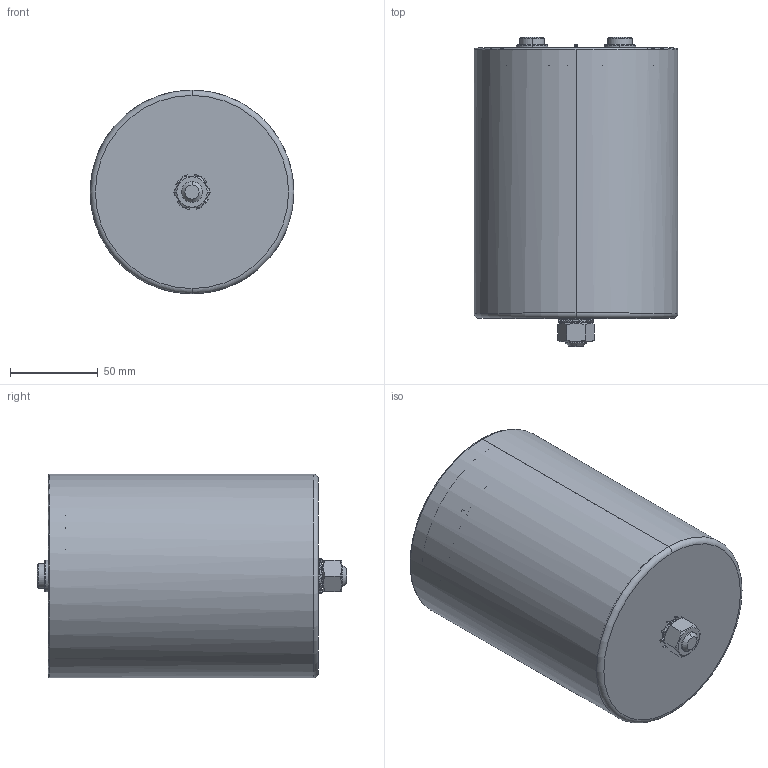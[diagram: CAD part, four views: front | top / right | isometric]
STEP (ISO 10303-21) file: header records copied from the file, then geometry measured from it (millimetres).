
FILE_DESCRIPTION (( 'STEP AP214' ), '1' );
FILE_NAME ('B25690 Series ¦µ116 Hc154 Ht160.STEP', '2025-01-14T07:50:30', ( '' ), ( '' ), 'SwSTEP 2.0', 'SolidWorks 2019', '' );
FILE_SCHEMA (( 'AUTOMOTIVE_DESIGN' ));
Length unit declared in the file: millimetre
Products named in the file (1): B25690 Series 朴116 Hc154 Ht160
Bounding box: 116 x 176 x 116 mm (x, y, z)
Volume: 151964.6 mm3; surface area: 172624.7 mm2
Topology: 1 solids, 2 shells, 371 faces, 1009 edges, 645 vertices
Faces by surface type: plane 137, cylinder 124, cone 50, bspline 40, torus 16, sphere 4
Entity records: 12572 total; most frequent: CARTESIAN_POINT 3598, ORIENTED_EDGE 2002, DIRECTION 1734, EDGE_CURVE 1001, AXIS2_PLACEMENT_3D 647, VERTEX_POINT 645, LINE 440, VECTOR 440
